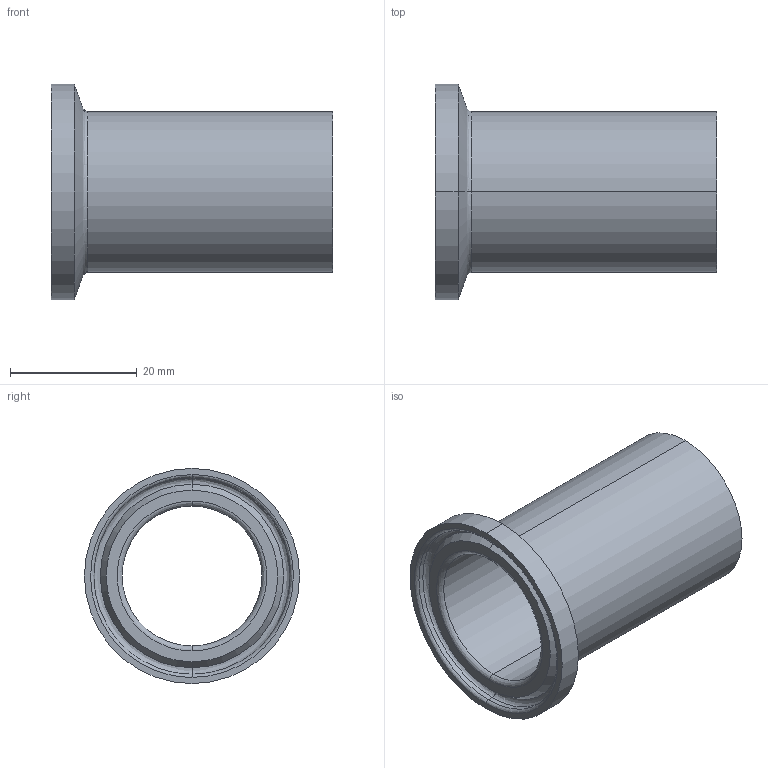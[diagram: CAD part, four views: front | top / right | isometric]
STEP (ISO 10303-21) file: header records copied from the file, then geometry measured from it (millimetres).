
FILE_DESCRIPTION (( 'STEP AP214' ), '1' );
FILE_NAME ('TEG14AM76L1.0_ TYPE A.STEP', '2016-05-23T03:47:06', ( 'eran' ), ( '' ), 'SwSTEP 2.0', 'SolidWorks 2016', '' );
FILE_SCHEMA (( 'AUTOMOTIVE_DESIGN' ));
Length unit declared in the file: millimetre
Products named in the file (1): TEG14AM76L1.0_ TYPE A
Bounding box: 44.5 x 34.01 x 34.01 mm (x, y, z)
Volume: 6760.7 mm3; surface area: 7817.8 mm2
Topology: 1 solids, 1 shells, 23 faces, 46 edges, 26 vertices
Faces by surface type: bspline 8, cylinder 8, cone 4, plane 3
Entity records: 724 total; most frequent: CARTESIAN_POINT 228, DIRECTION 104, ORIENTED_EDGE 92, EDGE_CURVE 46, AXIS2_PLACEMENT_3D 46, CIRCLE 30, VERTEX_POINT 26, EDGE_LOOP 26
